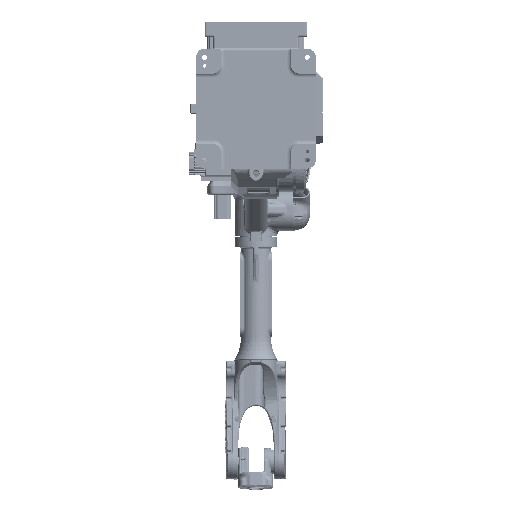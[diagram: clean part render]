
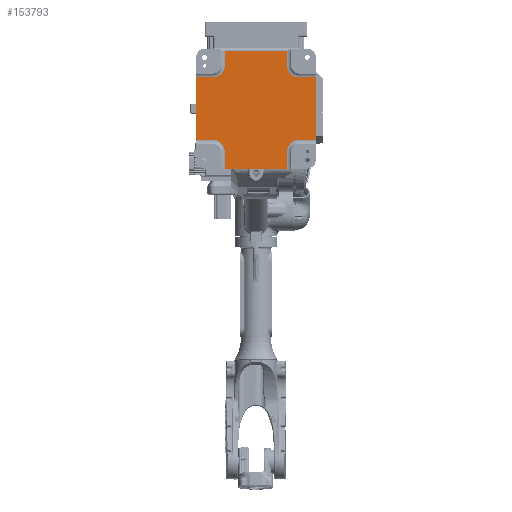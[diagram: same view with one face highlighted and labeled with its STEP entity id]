
A CAD part, front view. The second image highlights one B-rep face of the part: STEP entity #153793.
In plain terms, the highlighted planar face has unit normal (0, -1, 0).
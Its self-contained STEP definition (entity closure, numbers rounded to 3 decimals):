
#1911 = LINE ( 'NONE', #151935, #375517 ) ;
#4401 = EDGE_CURVE ( 'NONE', #213638, #118135, #424994, .T. ) ;
#6332 = DIRECTION ( 'NONE',  ( 0., 0., -1. ) ) ;
#10542 = LINE ( 'NONE', #200788, #367301 ) ;
#11455 = EDGE_CURVE ( 'NONE', #117394, #145726, #363917, .T. ) ;
#14154 = CARTESIAN_POINT ( 'NONE',  ( -114.262, 5., 156.25 ) ) ;
#15707 = VECTOR ( 'NONE', #373039, 1000. ) ;
#20760 = ORIENTED_EDGE ( 'NONE', *, *, #22009, .T. ) ;
#21757 = DIRECTION ( 'NONE',  ( 0., 0., 1. ) ) ;
#22009 = EDGE_CURVE ( 'NONE', #67510, #136345, #258516, .T. ) ;
#33827 = VERTEX_POINT ( 'NONE', #415651 ) ;
#36103 = ORIENTED_EDGE ( 'NONE', *, *, #236807, .T. ) ;
#36200 = DIRECTION ( 'NONE',  ( 0., 1., 0. ) ) ;
#41131 = CARTESIAN_POINT ( 'NONE',  ( -114.262, 5., 131.25 ) ) ;
#47311 = EDGE_CURVE ( 'NONE', #108344, #67510, #1911, .T. ) ;
#48170 = VECTOR ( 'NONE', #417137, 1000. ) ;
#51483 = EDGE_CURVE ( 'NONE', #112462, #33827, #424637, .T. ) ;
#51918 = CARTESIAN_POINT ( 'NONE',  ( 156.25, 5., -114.262 ) ) ;
#60226 = CARTESIAN_POINT ( 'NONE',  ( -218.859, 5., -114.262 ) ) ;
#62049 = CARTESIAN_POINT ( 'NONE',  ( -218.663, 5., -114.262 ) ) ;
#67510 = VERTEX_POINT ( 'NONE', #225648 ) ;
#72417 = CARTESIAN_POINT ( 'NONE',  ( -156.25, 5., 114.262 ) ) ;
#74189 = CARTESIAN_POINT ( 'NONE',  ( 114.262, 5., -218.663 ) ) ;
#77841 = ORIENTED_EDGE ( 'NONE', *, *, #172794, .T. ) ;
#88012 = CARTESIAN_POINT ( 'NONE',  ( -114.262, 5., 131.25 ) ) ;
#91696 = EDGE_CURVE ( 'NONE', #223502, #213638, #457536, .T. ) ;
#92140 = ORIENTED_EDGE ( 'NONE', *, *, #450453, .T. ) ;
#96669 = DIRECTION ( 'NONE',  ( 1., 0., 0. ) ) ;
#99974 = ORIENTED_EDGE ( 'NONE', *, *, #51483, .T. ) ;
#108344 = VERTEX_POINT ( 'NONE', #72417 ) ;
#112462 = VERTEX_POINT ( 'NONE', #51918 ) ;
#115622 = CARTESIAN_POINT ( 'NONE',  ( -218.859, 5., -114.262 ) ) ;
#117394 = VERTEX_POINT ( 'NONE', #143152 ) ;
#118135 = VERTEX_POINT ( 'NONE', #314576 ) ;
#119912 = VERTEX_POINT ( 'NONE', #163015 ) ;
#123026 = CARTESIAN_POINT ( 'NONE',  ( -114.262, 5., -218.663 ) ) ;
#124244 = CARTESIAN_POINT ( 'NONE',  ( -218.859, 5., 212.304 ) ) ;
#127275 = EDGE_CURVE ( 'NONE', #128668, #223502, #182338, .T. ) ;
#128668 = VERTEX_POINT ( 'NONE', #257823 ) ;
#129397 = VECTOR ( 'NONE', #96669, 1000. ) ;
#136345 = VERTEX_POINT ( 'NONE', #62049 ) ;
#139874 = VERTEX_POINT ( 'NONE', #295805 ) ;
#142206 = VECTOR ( 'NONE', #304485, 1000. ) ;
#143152 = CARTESIAN_POINT ( 'NONE',  ( 114.262, 5., 156.25 ) ) ;
#144694 = ORIENTED_EDGE ( 'NONE', *, *, #278366, .T. ) ;
#145515 = AXIS2_PLACEMENT_3D ( 'NONE', #205218, #203653, #21757 ) ;
#145726 = VERTEX_POINT ( 'NONE', #211885 ) ;
#151935 = CARTESIAN_POINT ( 'NONE',  ( -218.859, 5., 114.262 ) ) ;
#153793 = ADVANCED_FACE ( 'NONE', ( #234118 ), #316234, .F. ) ;
#156896 = EDGE_CURVE ( 'NONE', #118135, #112462, #308946, .T. ) ;
#163015 = CARTESIAN_POINT ( 'NONE',  ( 218.663, 5., 114.262 ) ) ;
#170943 = CARTESIAN_POINT ( 'NONE',  ( -187.5, 5., -218.663 ) ) ;
#172794 = EDGE_CURVE ( 'NONE', #469712, #430407, #212587, .T. ) ;
#177108 = ORIENTED_EDGE ( 'NONE', *, *, #433822, .T. ) ;
#180698 = CIRCLE ( 'NONE', #369458, 41.988 ) ;
#182338 = LINE ( 'NONE', #41131, #195829 ) ;
#185414 = LINE ( 'NONE', #259096, #15707 ) ;
#189238 = EDGE_LOOP ( 'NONE', ( #243469, #197572, #77841, #36103, #429844, #20760, #144694, #333397, #317246, #417664, #309430, #455563, #99974, #252871, #92140, #177108 ) ) ;
#193217 = CARTESIAN_POINT ( 'NONE',  ( -114.262, 5., 212.304 ) ) ;
#195829 = VECTOR ( 'NONE', #6332, 1000. ) ;
#197572 = ORIENTED_EDGE ( 'NONE', *, *, #357952, .T. ) ;
#199412 = DIRECTION ( 'NONE',  ( 0., 0., 1. ) ) ;
#200788 = CARTESIAN_POINT ( 'NONE',  ( 218.663, 5., -187.5 ) ) ;
#203653 = DIRECTION ( 'NONE',  ( 0., 1., 0. ) ) ;
#205218 = CARTESIAN_POINT ( 'NONE',  ( 156.25, 5., 156.25 ) ) ;
#211885 = CARTESIAN_POINT ( 'NONE',  ( 114.262, 5., 212.304 ) ) ;
#212587 = LINE ( 'NONE', #88012, #48170 ) ;
#213638 = VERTEX_POINT ( 'NONE', #74189 ) ;
#221134 = DIRECTION ( 'NONE',  ( 0., 1., 0. ) ) ;
#223502 = VERTEX_POINT ( 'NONE', #123026 ) ;
#225603 = VECTOR ( 'NONE', #419465, 1000. ) ;
#225648 = CARTESIAN_POINT ( 'NONE',  ( -218.663, 5., 114.262 ) ) ;
#234082 = VERTEX_POINT ( 'NONE', #400621 ) ;
#234118 = FACE_OUTER_BOUND ( 'NONE', #189238, .T. ) ;
#236807 = EDGE_CURVE ( 'NONE', #430407, #108344, #180698, .T. ) ;
#243469 = ORIENTED_EDGE ( 'NONE', *, *, #11455, .T. ) ;
#250857 = VECTOR ( 'NONE', #467898, 1000. ) ;
#252871 = ORIENTED_EDGE ( 'NONE', *, *, #358674, .T. ) ;
#257823 = CARTESIAN_POINT ( 'NONE',  ( -114.262, 5., -156.25 ) ) ;
#258516 = LINE ( 'NONE', #315847, #428484 ) ;
#259023 = CARTESIAN_POINT ( 'NONE',  ( 156.25, 5., -156.25 ) ) ;
#259096 = CARTESIAN_POINT ( 'NONE',  ( -218.859, 5., 114.262 ) ) ;
#259290 = EDGE_CURVE ( 'NONE', #139874, #128668, #389919, .T. ) ;
#259526 = LINE ( 'NONE', #60226, #129397 ) ;
#275181 = CARTESIAN_POINT ( 'NONE',  ( -156.25, 5., -156.25 ) ) ;
#278366 = EDGE_CURVE ( 'NONE', #136345, #139874, #259526, .T. ) ;
#285427 = AXIS2_PLACEMENT_3D ( 'NONE', #362058, #221134, #325543 ) ;
#289233 = DIRECTION ( 'NONE',  ( 0., 0., 1. ) ) ;
#292817 = DIRECTION ( 'NONE',  ( 1., 0., 0. ) ) ;
#294985 = LINE ( 'NONE', #124244, #142206 ) ;
#295175 = DIRECTION ( 'NONE',  ( 0., 0., 1. ) ) ;
#295805 = CARTESIAN_POINT ( 'NONE',  ( -156.25, 5., -114.262 ) ) ;
#300484 = DIRECTION ( 'NONE',  ( -1., 0., 0. ) ) ;
#304485 = DIRECTION ( 'NONE',  ( -1., 0., 0. ) ) ;
#308946 = CIRCLE ( 'NONE', #365996, 41.988 ) ;
#309430 = ORIENTED_EDGE ( 'NONE', *, *, #4401, .T. ) ;
#313195 = DIRECTION ( 'NONE',  ( 0., 0., 1. ) ) ;
#314576 = CARTESIAN_POINT ( 'NONE',  ( 114.262, 5., -156.25 ) ) ;
#315847 = CARTESIAN_POINT ( 'NONE',  ( -218.663, 5., -187.5 ) ) ;
#316234 = PLANE ( 'NONE',  #285427 ) ;
#317246 = ORIENTED_EDGE ( 'NONE', *, *, #127275, .T. ) ;
#325543 = DIRECTION ( 'NONE',  ( 0., 0., 1. ) ) ;
#328170 = VECTOR ( 'NONE', #292817, 1000. ) ;
#333397 = ORIENTED_EDGE ( 'NONE', *, *, #259290, .T. ) ;
#338132 = CIRCLE ( 'NONE', #145515, 41.988 ) ;
#343355 = DIRECTION ( 'NONE',  ( 0., 1., 0. ) ) ;
#357952 = EDGE_CURVE ( 'NONE', #145726, #469712, #294985, .T. ) ;
#358674 = EDGE_CURVE ( 'NONE', #33827, #119912, #10542, .T. ) ;
#362058 = CARTESIAN_POINT ( 'NONE',  ( -218.859, 5., 131.25 ) ) ;
#363917 = LINE ( 'NONE', #466333, #250857 ) ;
#365996 = AXIS2_PLACEMENT_3D ( 'NONE', #259023, #36200, #289233 ) ;
#367301 = VECTOR ( 'NONE', #455361, 1000. ) ;
#369458 = AXIS2_PLACEMENT_3D ( 'NONE', #372735, #407553, #295175 ) ;
#372735 = CARTESIAN_POINT ( 'NONE',  ( -156.25, 5., 156.25 ) ) ;
#373039 = DIRECTION ( 'NONE',  ( -1., 0., 0. ) ) ;
#375517 = VECTOR ( 'NONE', #300484, 1000. ) ;
#389919 = CIRCLE ( 'NONE', #455638, 41.988 ) ;
#394944 = DIRECTION ( 'NONE',  ( 0., 0., -1. ) ) ;
#400621 = CARTESIAN_POINT ( 'NONE',  ( 156.25, 5., 114.262 ) ) ;
#407553 = DIRECTION ( 'NONE',  ( 0., 1., 0. ) ) ;
#413652 = VECTOR ( 'NONE', #313195, 1000. ) ;
#415651 = CARTESIAN_POINT ( 'NONE',  ( 218.663, 5., -114.262 ) ) ;
#417137 = DIRECTION ( 'NONE',  ( 0., 0., -1. ) ) ;
#417664 = ORIENTED_EDGE ( 'NONE', *, *, #91696, .T. ) ;
#419465 = DIRECTION ( 'NONE',  ( 1., 0., 0. ) ) ;
#424637 = LINE ( 'NONE', #115622, #328170 ) ;
#424994 = LINE ( 'NONE', #460192, #413652 ) ;
#428484 = VECTOR ( 'NONE', #394944, 1000. ) ;
#429844 = ORIENTED_EDGE ( 'NONE', *, *, #47311, .T. ) ;
#430407 = VERTEX_POINT ( 'NONE', #14154 ) ;
#433822 = EDGE_CURVE ( 'NONE', #234082, #117394, #338132, .T. ) ;
#450453 = EDGE_CURVE ( 'NONE', #119912, #234082, #185414, .T. ) ;
#455361 = DIRECTION ( 'NONE',  ( 0., 0., 1. ) ) ;
#455563 = ORIENTED_EDGE ( 'NONE', *, *, #156896, .T. ) ;
#455638 = AXIS2_PLACEMENT_3D ( 'NONE', #275181, #343355, #199412 ) ;
#457536 = LINE ( 'NONE', #170943, #225603 ) ;
#460192 = CARTESIAN_POINT ( 'NONE',  ( 114.262, 5., 131.25 ) ) ;
#466333 = CARTESIAN_POINT ( 'NONE',  ( 114.262, 5., 131.25 ) ) ;
#467898 = DIRECTION ( 'NONE',  ( 0., 0., 1. ) ) ;
#469712 = VERTEX_POINT ( 'NONE', #193217 ) ;
